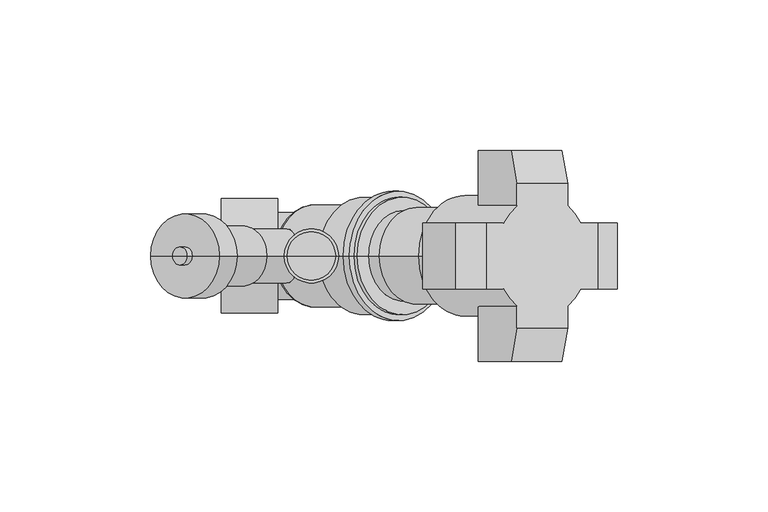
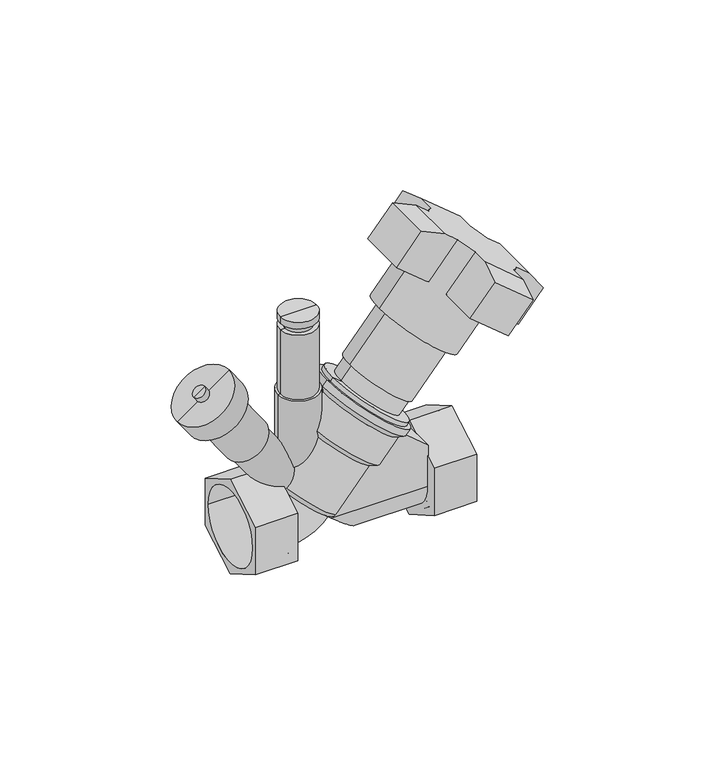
"""IFC4 building model written with IfcOpenShell, lengths in millimetres: valve geometry, 400_56_KOMF_VTR DN20-50 : DN 25, meet & vul/aftap."""

from ifc_helpers import new_model, si_unit, point, frame, origin, origin_2d, place, context, project, spatial, polyline, circle_curve, ellipse_curve, trimmed, segment, composite_curve, outline, extrude, source, transform, mapped, element, save
from ifc_brep_helpers import plane_surface, cylinder_surface, revolved_surface, advanced_brep


def valve_b4a91fd2(model_context):
    return source(origin(), model_context, "Body", "SolidModel", [
        advanced_brep(
        [(-29.95, -19.0, 10.9696551), (-29.95, -19.0, -10.9696551), (-29.95, 0.0, -21.9393102), (-29.95, 19.0, -10.9696551), (-29.95, 19.0, 10.9696551), (-29.95, 0.0, 21.9393102), (-48.75, -19.0, 10.9696551), (-48.75, 0.0, 21.9393102), (-48.75, 19.0, 10.9696551), (-48.75, 19.0, -10.9696551), (-48.75, 0.0, -21.9393102), (-48.75, -19.0, -10.9696551), (-48.75, -16.85, 0.0), (-48.75, 16.85, 0.0), (-31.95, -16.85, 0.0), (-31.95, 16.85, 0.0)],
        [
            (0, 1),
            (1, 2),
            (2, 3),
            (3, 4),
            (4, 5),
            (5, 0),
            (6, 7),
            (7, 8),
            (8, 9),
            (9, 10),
            (10, 11),
            (11, 6),
            (12, 13, circle_curve(frame((-48.75, 0.0, 0.0), z_axis=(1.0, 0.0, 0.0), x_axis=(0.0, 1.0, 0.0)), 16.85)),
            (13, 12, circle_curve(frame((-48.75, 0.0, 0.0), z_axis=(1.0, 0.0, 0.0), x_axis=(0.0, 1.0, 0.0)), 16.85)),
            (0, 6),
            (11, 1),
            (10, 2),
            (9, 3),
            (8, 4),
            (7, 5),
            (14, 15, circle_curve(frame((-31.95, 0.0, 0.0), z_axis=(-1.0, 0.0, 0.0), x_axis=(0.0, 1.0, 0.0)), 16.85)),
            (15, 14, circle_curve(frame((-31.95, 0.0, 0.0), z_axis=(-1.0, 0.0, 0.0), x_axis=(0.0, 1.0, 0.0)), 16.85)),
            (15, 13),
            (12, 14),
        ],
        [
            plane_surface(frame((-29.95, -19.0, 10.9696551), z_axis=(1.0, 0.0, 0.0), x_axis=(0.0, 0.0, -1.0))),
            plane_surface(frame((-48.75, -19.0, 10.9696551), z_axis=(-1.0, 0.0, 0.0), x_axis=(0.0, 0.0, 1.0))),
            plane_surface(frame((-29.95, -19.0, 10.9696551), z_axis=(0.0, -1.0, 0.0), x_axis=(-1.0, 0.0, 0.0))),
            plane_surface(frame((-29.95, -19.0, -10.9696551), z_axis=(0.0, -0.5000000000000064, -0.866025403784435), x_axis=(-1.0, 0.0, 0.0))),
            plane_surface(frame((-29.95, 0.0, -21.9393102), z_axis=(0.0, 0.5000000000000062, -0.866025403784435), x_axis=(-1.0, 0.0, 0.0))),
            plane_surface(frame((-29.95, 19.0, -10.9696551), z_axis=(0.0, 1.0, 0.0), x_axis=(-1.0, 0.0, 0.0))),
            plane_surface(frame((-29.95, 19.0, 10.9696551), z_axis=(0.0, 0.5000000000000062, 0.866025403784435), x_axis=(-1.0, 0.0, 0.0))),
            plane_surface(frame((-29.95, 0.0, 21.9393102), z_axis=(0.0, -0.5000000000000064, 0.866025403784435), x_axis=(-1.0, 0.0, 0.0))),
            plane_surface(frame((-31.95, 16.85, 0.0), z_axis=(-1.0, 0.0, 0.0), x_axis=(0.0, 0.0, 1.0))),
            revolved_surface(polyline([(-31.95, 16.85, 0.0), (-48.75, 16.85, 0.0)]), (-48.75, 0.0, 0.0), (1.0, 0.0, 0.0)),
        ],
        [
            (0, [[1, 2, 3, 4, 5, 6]]),
            (1, [[7, 8, 9, 10, 11, 12], [13, 14]]),
            (2, [[-1, 15, -12, 16]]),
            (3, [[-2, -16, -11, 17]]),
            (4, [[-3, -17, -10, 18]]),
            (5, [[-4, -18, -9, 19]]),
            (6, [[-5, -19, -8, 20]]),
            (7, [[-6, -20, -7, -15]]),
            (8, [[21, 22]]),
            (9, [[-22, 23, -13, 24]]),
            (9, [[-21, -24, -14, -23]]),
        ],
    ),
        advanced_brep(
        [(48.75, -19.0, 10.9696551), (48.75, -19.0, -10.9696551), (48.75, 0.0, -21.9393102), (48.75, 19.0, -10.9696551), (48.75, 19.0, 10.9696551), (48.75, 0.0, 21.9393102), (48.75, 16.85, 0.0), (48.75, -16.85, 0.0), (29.95, -19.0, 10.9696551), (29.95, 0.0, 21.9393102), (29.95, 19.0, 10.9696551), (29.95, 19.0, -10.9696551), (29.95, 0.0, -21.9393102), (29.95, -19.0, -10.9696551), (31.95, -16.85, 0.0), (31.95, 16.85, 0.0)],
        [
            (0, 1),
            (1, 2),
            (2, 3),
            (3, 4),
            (4, 5),
            (5, 0),
            (6, 7, circle_curve(frame((48.75, 0.0, 0.0), z_axis=(-1.0, 0.0, 0.0), x_axis=(0.0, 1.0, 0.0)), 16.85)),
            (7, 6, circle_curve(frame((48.75, 0.0, 0.0), z_axis=(-1.0, 0.0, 0.0), x_axis=(0.0, 1.0, 0.0)), 16.85)),
            (8, 9),
            (9, 10),
            (10, 11),
            (11, 12),
            (12, 13),
            (13, 8),
            (0, 8),
            (13, 1),
            (12, 2),
            (11, 3),
            (10, 4),
            (9, 5),
            (14, 15, circle_curve(frame((31.95, 0.0, 0.0), z_axis=(1.0, 0.0, 0.0), x_axis=(0.0, 1.0, 0.0)), 16.85)),
            (15, 14, circle_curve(frame((31.95, 0.0, 0.0), z_axis=(1.0, 0.0, 0.0), x_axis=(0.0, 1.0, 0.0)), 16.85)),
            (14, 7),
            (6, 15),
        ],
        [
            plane_surface(frame((48.75, -19.0, 10.9696551), z_axis=(1.0, 0.0, 0.0), x_axis=(0.0, 0.0, -1.0))),
            plane_surface(frame((29.95, -19.0, 10.9696551), z_axis=(-1.0, 0.0, 0.0), x_axis=(0.0, 0.0, 1.0))),
            plane_surface(frame((48.75, -19.0, 10.9696551), z_axis=(0.0, -1.0, 0.0), x_axis=(-1.0, 0.0, 0.0))),
            plane_surface(frame((48.75, -19.0, -10.9696551), z_axis=(0.0, -0.5000000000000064, -0.866025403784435), x_axis=(-1.0, 0.0, 0.0))),
            plane_surface(frame((48.75, 0.0, -21.9393102), z_axis=(0.0, 0.5000000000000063, -0.866025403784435), x_axis=(-1.0, 0.0, 0.0))),
            plane_surface(frame((48.75, 19.0, -10.9696551), z_axis=(0.0, 1.0, 0.0), x_axis=(-1.0, 0.0, 0.0))),
            plane_surface(frame((48.75, 19.0, 10.9696551), z_axis=(0.0, 0.5000000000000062, 0.866025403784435), x_axis=(-1.0, 0.0, 0.0))),
            plane_surface(frame((48.75, 0.0, 21.9393102), z_axis=(0.0, -0.5000000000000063, 0.866025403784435), x_axis=(-1.0, 0.0, 0.0))),
            plane_surface(frame((31.95, 16.85, 0.0), z_axis=(1.0, 0.0, 0.0), x_axis=(0.0, 0.0, -1.0))),
            revolved_surface(polyline([(48.75, 16.85, 0.0), (31.95, 16.85, 0.0)]), (31.95, 0.0, 0.0), (1.0, 0.0, 0.0)),
        ],
        [
            (0, [[1, 2, 3, 4, 5, 6], [7, 8]]),
            (1, [[9, 10, 11, 12, 13, 14]]),
            (2, [[-1, 15, -14, 16]]),
            (3, [[-2, -16, -13, 17]]),
            (4, [[-3, -17, -12, 18]]),
            (5, [[-4, -18, -11, 19]]),
            (6, [[-5, -19, -10, 20]]),
            (7, [[-6, -20, -9, -15]]),
            (8, [[21, 22]]),
            (9, [[-21, 23, -7, 24]]),
            (9, [[-22, -24, -8, -23]]),
        ],
    ),
        extrude(outline(polyline([(14.5, 31.95), (27.0730431, 25.0736029), (39.6515796, 10.0830869), (0.0, 22.45), (0.0, 31.95), (14.5, 31.95)])), frame((0.0, -2.0, 0.0), z_axis=(0.0, 1.0, 0.0), x_axis=(0.0, 0.0, 1.0)), (0.0, 0.0, 1.0), 4.0),
        extrude(outline(composite_curve([segment(trimmed(circle_curve(origin_2d(), 16.85), [point((0.0, -16.85))], [point((0.0, 16.85))], False, "CARTESIAN"), True, "CONTINUOUS"), segment(trimmed(circle_curve(origin_2d(), 16.85), [point((0.0, 16.85))], [point((0.0, -16.85))], False, "CARTESIAN"), True, "CONTINUOUS")], self_intersect=False)), frame((29.95, 0.0, 0.0), z_axis=(1.0, 0.0, 0.0), x_axis=(0.0, 1.0, 0.0)), (0.0, 0.0, 1.0), 2.0),
        advanced_brep(
        [(11.3686621, 0.0, 41.1836685), (26.3065287, 0.0, 28.6493101), (-3.5692046, 0.0, 53.7180269), (-30.3330222, 0.0, 14.8213938), (-7.3516889, 0.0, -4.4622345), (-18.8423556, 0.0, 5.1795797), (-15.7954209, 0.0, 35.2580801), (10.2500902, 0.0, 13.4033014), (-4.5340248, 0.0, -4.2157208), (-30.5795359, 0.0, 17.6390579), (-16.4249568, 0.0, 38.397138), (13.4507765, 0.0, 13.3284212), (-8.0687178, 0.0, 48.3557158), (21.8070155, 0.0, 23.286999), (-8.3152315, 0.0, 51.1733799), (24.6246796, 0.0, 23.5335127), (-6.3868687, 0.0, 53.4715132), (26.5530424, 0.0, 25.831646), (-4.8547798, 0.0, 52.185938), (25.0209535, 0.0, 27.1172212)],
        [
            (0, 1),
            (1, 2, circle_curve(frame((11.3686621, 0.0, 41.1836685), z_axis=(0.6427876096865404, 0.0, 0.7660444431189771), x_axis=(0.7660444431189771, 0.0, -0.6427876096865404)), 19.5)),
            (2, 0),
            (2, 1, circle_curve(frame((11.3686621, 0.0, 41.1836685), z_axis=(0.6427876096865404, 0.0, 0.7660444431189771), x_axis=(0.7660444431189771, 0.0, -0.6427876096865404)), 19.5)),
            (3, 4, circle_curve(frame((-18.8423556, 0.0, 5.1795797), z_axis=(-0.6427876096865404, 0.0, -0.7660444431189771), x_axis=(0.7660444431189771, 0.0, -0.6427876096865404)), 15.0)),
            (4, 5),
            (5, 3),
            (4, 3, circle_curve(frame((-18.8423556, 0.0, 5.1795797), z_axis=(-0.6427876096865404, 0.0, -0.7660444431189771), x_axis=(0.7660444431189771, 0.0, -0.6427876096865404)), 15.0)),
            (6, 7, circle_curve(frame((-2.7726653, 0.0, 24.3306907), z_axis=(-0.6427876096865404, 0.0, -0.7660444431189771), x_axis=(0.7660444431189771, 0.0, -0.6427876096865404)), 17.0)),
            (7, 8),
            (8, 9, circle_curve(frame((-17.5567804, 0.0, 6.7116685), z_axis=(0.6427876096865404, 0.0, 0.7660444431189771), x_axis=(0.7660444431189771, 0.0, -0.6427876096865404)), 17.0)),
            (9, 6),
            (7, 6, circle_curve(frame((-2.7726653, 0.0, 24.3306907), z_axis=(-0.6427876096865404, 0.0, -0.7660444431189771), x_axis=(0.7660444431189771, 0.0, -0.6427876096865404)), 17.0)),
            (9, 8, circle_curve(frame((-17.5567804, 0.0, 6.7116685), z_axis=(0.6427876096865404, 0.0, 0.7660444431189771), x_axis=(0.7660444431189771, 0.0, -0.6427876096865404)), 17.0)),
            (10, 11, circle_curve(frame((-1.4870901, 0.0, 25.8627796), z_axis=(-0.6427876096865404, 0.0, -0.7660444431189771), x_axis=(0.7660444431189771, 0.0, -0.6427876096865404)), 19.5)),
            (11, 7),
            (6, 10),
            (11, 10, circle_curve(frame((-1.4870901, 0.0, 25.8627796), z_axis=(-0.6427876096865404, 0.0, -0.7660444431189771), x_axis=(0.7660444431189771, 0.0, -0.6427876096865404)), 19.5)),
            (12, 13, circle_curve(frame((6.8691488, 0.0, 35.8213574), z_axis=(-0.6427876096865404, 0.0, -0.7660444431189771), x_axis=(0.7660444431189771, 0.0, -0.6427876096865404)), 19.5)),
            (13, 11),
            (10, 12),
            (13, 12, circle_curve(frame((6.8691488, 0.0, 35.8213574), z_axis=(-0.6427876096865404, 0.0, -0.7660444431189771), x_axis=(0.7660444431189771, 0.0, -0.6427876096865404)), 19.5)),
            (14, 15, circle_curve(frame((8.154724, 0.0, 37.3534463), z_axis=(-0.6427876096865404, 0.0, -0.7660444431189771), x_axis=(0.7660444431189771, 0.0, -0.6427876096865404)), 21.5)),
            (15, 13),
            (12, 14),
            (15, 14, circle_curve(frame((8.154724, 0.0, 37.3534463), z_axis=(-0.6427876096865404, 0.0, -0.7660444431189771), x_axis=(0.7660444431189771, 0.0, -0.6427876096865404)), 21.5)),
            (16, 17, circle_curve(frame((10.0830869, 0.0, 39.6515796), z_axis=(-0.6427876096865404, 0.0, -0.7660444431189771), x_axis=(0.7660444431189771, 0.0, -0.6427876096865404)), 21.5)),
            (17, 15),
            (14, 16),
            (17, 16, circle_curve(frame((10.0830869, 0.0, 39.6515796), z_axis=(-0.6427876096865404, 0.0, -0.7660444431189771), x_axis=(0.7660444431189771, 0.0, -0.6427876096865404)), 21.5)),
            (18, 19, circle_curve(frame((10.0830869, 0.0, 39.6515796), z_axis=(-0.6427876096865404, 0.0, -0.7660444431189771), x_axis=(0.7660444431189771, 0.0, -0.6427876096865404)), 19.5)),
            (19, 17),
            (16, 18),
            (19, 18, circle_curve(frame((10.0830869, 0.0, 39.6515796), z_axis=(-0.6427876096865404, 0.0, -0.7660444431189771), x_axis=(0.7660444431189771, 0.0, -0.6427876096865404)), 19.5)),
            (1, 19),
            (18, 2),
            (8, 4, circle_curve(frame((-6.0661137, 0.0, -2.9301456), z_axis=(0.0, 1.0, 0.0), x_axis=(0.6427876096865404, 0.0, 0.7660444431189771)), 2.0)),
            (3, 9, circle_curve(frame((-29.047447, 0.0, 16.3534827), z_axis=(0.0, 1.0, 0.0), x_axis=(0.6427876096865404, 0.0, 0.7660444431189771)), 2.0)),
        ],
        [
            plane_surface(frame((11.3686621, 0.0, 41.1836685), z_axis=(0.6427876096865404, 0.0, 0.7660444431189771), x_axis=(0.7660444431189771, 0.0, -0.6427876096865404))),
            plane_surface(frame((-18.8423556, 0.0, 5.1795797), z_axis=(-0.6427876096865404, 0.0, -0.7660444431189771), x_axis=(0.7660444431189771, 0.0, -0.6427876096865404))),
            cylinder_surface(frame((-23.188539, 0.0, 0.0), z_axis=(0.6427876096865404, 0.0, 0.7660444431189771), x_axis=(0.7660444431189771, 0.0, -0.6427876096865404)), 17.0),
            revolved_surface(polyline([(10.2500902, 0.0, 13.4033014), (13.4507765, 0.0, 13.3284212)]), (-23.188539, 0.0, 0.0), (0.6427876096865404, 0.0, 0.7660444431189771)),
            cylinder_surface(frame((-23.188539, 0.0, 0.0), z_axis=(0.6427876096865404, 0.0, 0.7660444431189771), x_axis=(0.7660444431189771, 0.0, -0.6427876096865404)), 19.5),
            revolved_surface(polyline([(21.8070155, 0.0, 23.286999), (24.6246796, 0.0, 23.5335127)]), (-23.188539, 0.0, 0.0), (0.6427876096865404, 0.0, 0.7660444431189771)),
            cylinder_surface(frame((-23.188539, 0.0, 0.0), z_axis=(0.6427876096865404, 0.0, 0.7660444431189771), x_axis=(0.7660444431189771, 0.0, -0.6427876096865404)), 21.5),
            plane_surface(frame((10.0830869, 0.0, 39.6515796), z_axis=(0.6427876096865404, 0.0, 0.7660444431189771), x_axis=(0.7660444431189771, 0.0, -0.6427876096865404))),
            revolved_surface(trimmed(ellipse_curve(frame((-6.0661137, 0.0, -2.9301456), z_axis=(0.0, -1.0, 0.0), x_axis=(0.6427876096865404, 0.0, 0.7660444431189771)), 2.0, 2.0), [point((-7.3516889, 0.0, -4.4622345))], [point((-4.5340248, 0.0, -4.2157208))], True, "CARTESIAN"), (-23.188539, 0.0, 0.0), (0.6427876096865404, 0.0, 0.7660444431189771)),
        ],
        [
            (0, [[1, 2, 3]]),
            (0, [[-3, 4, -1]]),
            (1, [[5, 6, 7]]),
            (1, [[8, -7, -6]]),
            (2, [[9, 10, 11, 12]]),
            (2, [[13, -12, 14, -10]]),
            (3, [[15, 16, -9, 17]]),
            (3, [[18, -17, -13, -16]]),
            (4, [[19, 20, -15, 21]]),
            (4, [[22, -21, -18, -20]]),
            (5, [[23, 24, -19, 25]]),
            (5, [[26, -25, -22, -24]]),
            (6, [[27, 28, -23, 29]]),
            (6, [[30, -29, -26, -28]]),
            (7, [[31, 32, -27, 33]]),
            (7, [[34, -33, -30, -32]]),
            (4, [[-2, 35, -31, 36]]),
            (4, [[-4, -36, -34, -35]]),
            (8, [[-11, 37, -5, 38]]),
            (8, [[-14, -38, -8, -37]]),
        ],
    ),
        advanced_brep(
        [(-27.8423556, 0.0, 53.9729077), (-9.8423556, 0.0, 53.9729077), (-9.8423556, 0.0, 5.1795797), (-27.8423556, 0.0, 5.1795797), (-26.8423556, 0.0, 53.9729077), (-10.8423556, 0.0, 53.9729077), (-26.8423556, 0.0, 83.9729077), (-10.8423556, 0.0, 83.9729077), (-24.8423556, 0.0, 83.9729077), (-12.8423556, 0.0, 83.9729077), (-18.8423556, 0.0, 5.1795797), (-24.8423556, 0.0, 86.9729077), (-12.8423556, 0.0, 86.9729077), (-26.8423556, 0.0, 86.9729077), (-10.8423556, 0.0, 86.9729077), (-26.8423556, 0.0, 89.9729077), (-10.8423556, 0.0, 89.9729077), (-18.8423556, 0.0, 89.9729077)],
        [
            (0, 1, circle_curve(frame((-18.8423556, 0.0, 53.9729077), z_axis=(0.0, 0.0, -1.0), x_axis=(1.0, 0.0, 0.0)), 9.0)),
            (1, 2),
            (2, 3, circle_curve(frame((-18.8423556, 0.0, 5.1795797), z_axis=(0.0, 0.0, 1.0), x_axis=(1.0, 0.0, 0.0)), 9.0)),
            (3, 0),
            (1, 0, circle_curve(frame((-18.8423556, 0.0, 53.9729077), z_axis=(0.0, 0.0, -1.0), x_axis=(1.0, 0.0, 0.0)), 9.0)),
            (3, 2, circle_curve(frame((-18.8423556, 0.0, 5.1795797), z_axis=(0.0, 0.0, 1.0), x_axis=(1.0, 0.0, 0.0)), 9.0)),
            (4, 5, circle_curve(frame((-18.8423556, 0.0, 53.9729077), z_axis=(0.0, 0.0, -1.0), x_axis=(1.0, 0.0, 0.0)), 8.0)),
            (5, 1),
            (0, 4),
            (5, 4, circle_curve(frame((-18.8423556, 0.0, 53.9729077), z_axis=(0.0, 0.0, -1.0), x_axis=(1.0, 0.0, 0.0)), 8.0)),
            (6, 7, circle_curve(frame((-18.8423556, 0.0, 83.9729077), z_axis=(0.0, 0.0, -1.0), x_axis=(1.0, 0.0, 0.0)), 8.0)),
            (7, 5),
            (4, 6),
            (7, 6, circle_curve(frame((-18.8423556, 0.0, 83.9729077), z_axis=(0.0, 0.0, -1.0), x_axis=(1.0, 0.0, 0.0)), 8.0)),
            (8, 9, circle_curve(frame((-18.8423556, 0.0, 83.9729077), z_axis=(0.0, 0.0, -1.0), x_axis=(1.0, 0.0, 0.0)), 6.0)),
            (9, 7),
            (6, 8),
            (9, 8, circle_curve(frame((-18.8423556, 0.0, 83.9729077), z_axis=(0.0, 0.0, -1.0), x_axis=(1.0, 0.0, 0.0)), 6.0)),
            (2, 10),
            (10, 3),
            (11, 12, circle_curve(frame((-18.8423556, 0.0, 86.9729077), z_axis=(0.0, 0.0, -1.0), x_axis=(1.0, 0.0, 0.0)), 6.0)),
            (12, 9),
            (8, 11),
            (12, 11, circle_curve(frame((-18.8423556, 0.0, 86.9729077), z_axis=(0.0, 0.0, -1.0), x_axis=(1.0, 0.0, 0.0)), 6.0)),
            (13, 14, circle_curve(frame((-18.8423556, 0.0, 86.9729077), z_axis=(0.0, 0.0, -1.0), x_axis=(1.0, 0.0, 0.0)), 8.0)),
            (14, 12),
            (11, 13),
            (14, 13, circle_curve(frame((-18.8423556, 0.0, 86.9729077), z_axis=(0.0, 0.0, -1.0), x_axis=(1.0, 0.0, 0.0)), 8.0)),
            (15, 16, circle_curve(frame((-18.8423556, 0.0, 89.9729077), z_axis=(0.0, 0.0, -1.0), x_axis=(1.0, 0.0, 0.0)), 8.0)),
            (16, 14),
            (13, 15),
            (16, 15, circle_curve(frame((-18.8423556, 0.0, 89.9729077), z_axis=(0.0, 0.0, -1.0), x_axis=(1.0, 0.0, 0.0)), 8.0)),
            (17, 16),
            (15, 17),
        ],
        [
            cylinder_surface(frame((-18.8423556, 0.0, 5.1795797), z_axis=(0.0, 0.0, 1.0), x_axis=(1.0, 0.0, 0.0)), 9.0),
            plane_surface(frame((-18.8423556, 0.0, 53.9729077), z_axis=(0.0, 0.0, 1.0), x_axis=(1.0, 0.0, 0.0))),
            cylinder_surface(frame((-18.8423556, 0.0, 5.1795797), z_axis=(0.0, 0.0, 1.0), x_axis=(1.0, 0.0, 0.0)), 8.0),
            plane_surface(frame((-18.8423556, 0.0, 83.9729077), z_axis=(0.0, 0.0, 1.0), x_axis=(1.0, 0.0, 0.0))),
            plane_surface(frame((-18.8423556, 0.0, 5.1795797), z_axis=(0.0, 0.0, -1.0), x_axis=(1.0, 0.0, 0.0))),
            cylinder_surface(frame((-18.8423556, 0.0, 5.1795797), z_axis=(0.0, 0.0, 1.0), x_axis=(1.0, 0.0, 0.0)), 6.0),
            plane_surface(frame((-18.8423556, 0.0, 86.9729077), z_axis=(0.0, 0.0, -1.0), x_axis=(1.0, 0.0, 0.0))),
            plane_surface(frame((-18.8423556, 0.0, 89.9729077), z_axis=(0.0, 0.0, 1.0), x_axis=(1.0, 0.0, 0.0))),
        ],
        [
            (0, [[1, 2, 3, 4]]),
            (0, [[5, -4, 6, -2]]),
            (1, [[7, 8, -1, 9]]),
            (1, [[10, -9, -5, -8]]),
            (2, [[11, 12, -7, 13]]),
            (2, [[14, -13, -10, -12]]),
            (3, [[15, 16, -11, 17]]),
            (3, [[18, -17, -14, -16]]),
            (4, [[-3, 19, 20]]),
            (4, [[-6, -20, -19]]),
            (5, [[21, 22, -15, 23]]),
            (5, [[24, -23, -18, -22]]),
            (6, [[25, 26, -21, 27]]),
            (6, [[28, -27, -24, -26]]),
            (2, [[29, 30, -25, 31]]),
            (2, [[32, -31, -28, -30]]),
            (7, [[33, -29, 34]]),
            (7, [[-34, -32, -33]]),
        ],
    ),
        advanced_brep(
        [(-62.8411907, 0.0, 48.8385136), (-44.8198457, 0.0, 61.4571952), (-45.6389977, 0.0, 60.8836187), (-62.0220386, 0.0, 49.41209), (-26.214724, 0.0, 0.0173917), (-11.4699872, 0.0, 10.3417676), (-18.8423556, 0.0, 5.1795797), (-49.1577814, 0.0, 32.7834735), (-34.4130446, 0.0, 43.1078494), (-49.9769335, 0.0, 32.2098971), (-33.5938926, 0.0, 43.6814258), (-63.9883436, 0.0, 50.4768176), (-45.9669986, 0.0, 63.0954992), (-66.4457997, 0.0, 48.7560883), (-43.5095424, 0.0, 64.8162286), (-72.181564, 0.0, 56.9476088), (-49.2453068, 0.0, 73.007749), (-63.1708916, 0.0, 63.2569496), (-58.2559793, 0.0, 66.6984082), (-64.8916209, 0.0, 65.7144057), (-59.9767086, 0.0, 69.1558643), (-62.4341647, 0.0, 67.435135)],
        [
            (0, 1, circle_curve(frame((-53.8305182, 0.0, 55.1478544), z_axis=(0.573576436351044, 0.0, -0.8191520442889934), x_axis=(0.8191520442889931, 0.0, 0.5735764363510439)), 11.0)),
            (1, 2),
            (2, 3, circle_curve(frame((-53.8305182, 0.0, 55.1478544), z_axis=(-0.573576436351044, 0.0, 0.8191520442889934), x_axis=(0.8191520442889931, 0.0, 0.5735764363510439)), 10.0)),
            (3, 0),
            (1, 0, circle_curve(frame((-53.8305182, 0.0, 55.1478544), z_axis=(0.573576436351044, 0.0, -0.8191520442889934), x_axis=(0.8191520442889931, 0.0, 0.5735764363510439)), 11.0)),
            (3, 2, circle_curve(frame((-53.8305182, 0.0, 55.1478544), z_axis=(-0.573576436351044, 0.0, 0.8191520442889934), x_axis=(0.8191520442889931, 0.0, 0.5735764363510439)), 10.0)),
            (4, 5, circle_curve(frame((-18.8423556, 0.0, 5.1795797), z_axis=(0.573576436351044, 0.0, -0.8191520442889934), x_axis=(0.8191520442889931, 0.0, 0.5735764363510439)), 9.0)),
            (5, 6),
            (6, 4),
            (5, 4, circle_curve(frame((-18.8423556, 0.0, 5.1795797), z_axis=(0.573576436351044, 0.0, -0.8191520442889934), x_axis=(0.8191520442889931, 0.0, 0.5735764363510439)), 9.0)),
            (7, 8, circle_curve(frame((-41.785413, 0.0, 37.9456614), z_axis=(0.573576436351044, 0.0, -0.8191520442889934), x_axis=(0.8191520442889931, 0.0, 0.5735764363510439)), 9.0)),
            (8, 5),
            (4, 7),
            (8, 7, circle_curve(frame((-41.785413, 0.0, 37.9456614), z_axis=(0.573576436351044, 0.0, -0.8191520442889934), x_axis=(0.8191520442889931, 0.0, 0.5735764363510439)), 9.0)),
            (9, 10, circle_curve(frame((-41.785413, 0.0, 37.9456614), z_axis=(0.573576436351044, 0.0, -0.8191520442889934), x_axis=(0.8191520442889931, 0.0, 0.5735764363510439)), 10.0)),
            (10, 8),
            (7, 9),
            (10, 9, circle_curve(frame((-41.785413, 0.0, 37.9456614), z_axis=(0.573576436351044, 0.0, -0.8191520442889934), x_axis=(0.8191520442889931, 0.0, 0.5735764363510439)), 10.0)),
            (2, 10),
            (9, 3),
            (11, 12, circle_curve(frame((-54.9776711, 0.0, 56.7861584), z_axis=(0.573576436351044, 0.0, -0.8191520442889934), x_axis=(0.8191520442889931, 0.0, 0.5735764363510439)), 11.0)),
            (12, 1),
            (0, 11),
            (12, 11, circle_curve(frame((-54.9776711, 0.0, 56.7861584), z_axis=(0.573576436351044, 0.0, -0.8191520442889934), x_axis=(0.8191520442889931, 0.0, 0.5735764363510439)), 11.0)),
            (13, 14, circle_curve(frame((-54.9776711, 0.0, 56.7861584), z_axis=(0.573576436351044, 0.0, -0.8191520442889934), x_axis=(0.8191520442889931, 0.0, 0.5735764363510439)), 14.0)),
            (14, 12),
            (11, 13),
            (14, 13, circle_curve(frame((-54.9776711, 0.0, 56.7861584), z_axis=(0.573576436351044, 0.0, -0.8191520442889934), x_axis=(0.8191520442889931, 0.0, 0.5735764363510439)), 14.0)),
            (15, 16, circle_curve(frame((-60.7134354, 0.0, 64.9776789), z_axis=(0.573576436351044, 0.0, -0.8191520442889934), x_axis=(0.8191520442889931, 0.0, 0.5735764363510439)), 14.0)),
            (16, 14),
            (13, 15),
            (16, 15, circle_curve(frame((-60.7134354, 0.0, 64.9776789), z_axis=(0.573576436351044, 0.0, -0.8191520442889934), x_axis=(0.8191520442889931, 0.0, 0.5735764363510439)), 14.0)),
            (17, 18, circle_curve(frame((-60.7134354, 0.0, 64.9776789), z_axis=(0.573576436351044, 0.0, -0.8191520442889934), x_axis=(0.8191520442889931, 0.0, 0.5735764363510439)), 3.0)),
            (18, 16),
            (15, 17),
            (18, 17, circle_curve(frame((-60.7134354, 0.0, 64.9776789), z_axis=(0.573576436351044, 0.0, -0.8191520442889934), x_axis=(0.8191520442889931, 0.0, 0.5735764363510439)), 3.0)),
            (19, 20, circle_curve(frame((-62.4341647, 0.0, 67.435135), z_axis=(0.573576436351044, 0.0, -0.8191520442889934), x_axis=(0.8191520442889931, 0.0, 0.5735764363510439)), 3.0)),
            (20, 18),
            (17, 19),
            (20, 19, circle_curve(frame((-62.4341647, 0.0, 67.435135), z_axis=(0.573576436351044, 0.0, -0.8191520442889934), x_axis=(0.8191520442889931, 0.0, 0.5735764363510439)), 3.0)),
            (21, 20),
            (19, 21),
        ],
        [
            plane_surface(frame((-53.8305182, 0.0, 55.1478544), z_axis=(0.573576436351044, 0.0, -0.8191520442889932), x_axis=(0.8191520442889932, 0.0, 0.573576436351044))),
            plane_surface(frame((-18.8423556, 0.0, 5.1795797), z_axis=(0.573576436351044, 0.0, -0.8191520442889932), x_axis=(0.8191520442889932, 0.0, 0.573576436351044))),
            cylinder_surface(frame((-18.8423556, 0.0, 5.1795797), z_axis=(-0.5735764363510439, 0.0, 0.8191520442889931), x_axis=(0.8191520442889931, 0.0, 0.5735764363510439)), 9.0),
            plane_surface(frame((-41.785413, 0.0, 37.9456614), z_axis=(0.573576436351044, 0.0, -0.8191520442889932), x_axis=(0.8191520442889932, 0.0, 0.573576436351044))),
            cylinder_surface(frame((-18.8423556, 0.0, 5.1795797), z_axis=(-0.5735764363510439, 0.0, 0.8191520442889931), x_axis=(0.8191520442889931, 0.0, 0.5735764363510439)), 10.0),
            cylinder_surface(frame((-18.8423556, 0.0, 5.1795797), z_axis=(-0.5735764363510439, 0.0, 0.8191520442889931), x_axis=(0.8191520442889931, 0.0, 0.5735764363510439)), 11.0),
            plane_surface(frame((-54.9776711, 0.0, 56.7861584), z_axis=(0.573576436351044, 0.0, -0.8191520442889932), x_axis=(0.8191520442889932, 0.0, 0.573576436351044))),
            cylinder_surface(frame((-18.8423556, 0.0, 5.1795797), z_axis=(-0.5735764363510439, 0.0, 0.8191520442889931), x_axis=(0.8191520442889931, 0.0, 0.5735764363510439)), 14.0),
            plane_surface(frame((-60.7134354, 0.0, 64.9776789), z_axis=(-0.573576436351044, 0.0, 0.8191520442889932), x_axis=(0.8191520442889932, 0.0, 0.573576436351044))),
            cylinder_surface(frame((-18.8423556, 0.0, 5.1795797), z_axis=(-0.5735764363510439, 0.0, 0.8191520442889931), x_axis=(0.8191520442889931, 0.0, 0.5735764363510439)), 3.0),
            plane_surface(frame((-62.4341647, 0.0, 67.435135), z_axis=(-0.573576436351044, 0.0, 0.8191520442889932), x_axis=(0.8191520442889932, 0.0, 0.573576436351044))),
        ],
        [
            (0, [[1, 2, 3, 4]]),
            (0, [[5, -4, 6, -2]]),
            (1, [[7, 8, 9]]),
            (1, [[10, -9, -8]]),
            (2, [[11, 12, -7, 13]]),
            (2, [[14, -13, -10, -12]]),
            (3, [[15, 16, -11, 17]]),
            (3, [[18, -17, -14, -16]]),
            (4, [[-3, 19, -15, 20]]),
            (4, [[-6, -20, -18, -19]]),
            (5, [[21, 22, -1, 23]]),
            (5, [[24, -23, -5, -22]]),
            (6, [[25, 26, -21, 27]]),
            (6, [[28, -27, -24, -26]]),
            (7, [[29, 30, -25, 31]]),
            (7, [[32, -31, -28, -30]]),
            (8, [[33, 34, -29, 35]]),
            (8, [[36, -35, -32, -34]]),
            (9, [[37, 38, -33, 39]]),
            (9, [[40, -39, -36, -38]]),
            (10, [[41, -37, 42]]),
            (10, [[-42, -40, -41]]),
        ],
    ),
        advanced_brep(
        [(4.5147563, 0.0, 56.351359), (27.4960896, 0.0, 37.0677307), (22.8593287, 0.0, 31.5418543), (-0.1220046, 0.0, 50.8254826), (3.7487118, 0.0, 56.9941466), (28.262134, 0.0, 36.4249431), (19.8184021, 0.0, 76.1452577), (44.3318242, 0.0, 55.5760542), (16.7542243, 0.0, 78.7164081), (47.396002, 0.0, 53.0049037), (29.6099765, 0.0, 94.037297), (32.1354005, 11.0, 91.9182146), (44.9911527, 11.0, 107.2391035), (49.3601287, 16.7032931, 103.5730974), (36.5043765, 16.7032931, 88.2522085), (53.3573542, 16.7032931, 74.1108811), (66.2131064, 16.7032931, 89.43177), (70.5820824, 11.0, 85.7657638), (57.7263302, 11.0, 70.444875), (60.2517542, 0.0, 68.3257926), (57.7263302, -11.0, 70.444875), (70.5820824, -11.0, 85.7657638), (66.2131064, -16.7032931, 89.43177), (53.3573542, -16.7032931, 74.1108811), (36.5043765, -16.7032931, 88.2522085), (49.3601287, -16.7032931, 103.5730974), (44.9911527, -11.0, 107.2391035), (32.1354005, -11.0, 91.9182146), (76.1716842, -11.0, 81.075531), (76.1716842, 11.0, 81.075531), (66.2131064, 24.0, 89.43177), (49.3601287, 24.0, 103.5730974), (39.4015509, 11.0, 111.9293363), (39.4015509, -11.0, 111.9293363), (49.3601287, -24.0, 103.5730974), (66.2131064, -24.0, 89.43177), (11.3686621, 0.0, 41.1836685), (29.0466992, -11.0, 116.7018667), (18.1193098, -11.0, 103.6791111), (71.7424209, -11.0, 58.6839785), (82.6698102, -11.0, 71.706734), (82.6698102, 11.0, 71.706734), (71.7424209, 11.0, 58.6839785), (18.1193098, 11.0, 103.6791111), (29.0466992, 11.0, 116.7018667), (53.3573542, 35.0, 74.1108811), (64.2847436, 35.0, 87.1336366), (64.2847436, -35.0, 87.1336366), (53.3573542, -35.0, 74.1108811), (36.5043765, -35.0, 88.2522085), (47.4317658, -35.0, 101.274964), (47.4317658, 35.0, 101.274964), (36.5043765, 35.0, 88.2522085)],
        [
            (0, 1, circle_curve(frame((16.0054229, 0.0, 46.7095449), z_axis=(-0.6427876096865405, 0.0, -0.7660444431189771), x_axis=(0.7660444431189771, 0.0, -0.6427876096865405)), 15.0)),
            (1, 2),
            (2, 3, circle_curve(frame((11.3686621, 0.0, 41.1836685), z_axis=(0.6427876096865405, 0.0, 0.7660444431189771), x_axis=(0.7660444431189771, 0.0, -0.6427876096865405)), 15.0)),
            (3, 0),
            (1, 0, circle_curve(frame((16.0054229, 0.0, 46.7095449), z_axis=(-0.6427876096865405, 0.0, -0.7660444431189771), x_axis=(0.7660444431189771, 0.0, -0.6427876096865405)), 15.0)),
            (3, 2, circle_curve(frame((11.3686621, 0.0, 41.1836685), z_axis=(0.6427876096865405, 0.0, 0.7660444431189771), x_axis=(0.7660444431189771, 0.0, -0.6427876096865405)), 15.0)),
            (0, 4),
            (4, 5, circle_curve(frame((16.0054229, 0.0, 46.7095449), z_axis=(-0.6427876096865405, 0.0, -0.7660444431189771), x_axis=(0.7660444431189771, 0.0, -0.6427876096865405)), 16.0)),
            (5, 1),
            (5, 4, circle_curve(frame((16.0054229, 0.0, 46.7095449), z_axis=(-0.6427876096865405, 0.0, -0.7660444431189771), x_axis=(0.7660444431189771, 0.0, -0.6427876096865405)), 16.0)),
            (4, 6),
            (6, 7, circle_curve(frame((32.0751131, 0.0, 65.8606559), z_axis=(-0.6427876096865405, 0.0, -0.7660444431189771), x_axis=(0.7660444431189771, 0.0, -0.6427876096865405)), 16.0)),
            (7, 5),
            (7, 6, circle_curve(frame((32.0751131, 0.0, 65.8606559), z_axis=(-0.6427876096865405, 0.0, -0.7660444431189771), x_axis=(0.7660444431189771, 0.0, -0.6427876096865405)), 16.0)),
            (6, 8),
            (8, 9, circle_curve(frame((32.0751131, 0.0, 65.8606559), z_axis=(-0.6427876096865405, 0.0, -0.7660444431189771), x_axis=(0.7660444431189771, 0.0, -0.6427876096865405)), 20.0)),
            (9, 7),
            (9, 8, circle_curve(frame((32.0751131, 0.0, 65.8606559), z_axis=(-0.6427876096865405, 0.0, -0.7660444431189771), x_axis=(0.7660444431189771, 0.0, -0.6427876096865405)), 20.0)),
            (8, 10),
            (10, 11, circle_curve(frame((44.9308653, 0.0, 81.1815448), z_axis=(-0.6427876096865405, 0.0, -0.7660444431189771), x_axis=(0.7660444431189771, 0.0, -0.6427876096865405)), 20.0)),
            (11, 12),
            (12, 13, circle_curve(frame((57.7866175, 0.0, 96.5024337), z_axis=(-0.6427876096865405, 0.0, -0.7660444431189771), x_axis=(0.7660444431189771, 0.0, -0.6427876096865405)), 20.0)),
            (13, 14),
            (14, 15, circle_curve(frame((44.9308653, 0.0, 81.1815448), z_axis=(-0.6427876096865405, 0.0, -0.7660444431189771), x_axis=(0.7660444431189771, 0.0, -0.6427876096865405)), 20.0)),
            (15, 16),
            (16, 17, circle_curve(frame((57.7866175, 0.0, 96.5024337), z_axis=(-0.6427876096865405, 0.0, -0.7660444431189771), x_axis=(0.7660444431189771, 0.0, -0.6427876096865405)), 20.0)),
            (17, 18),
            (18, 19, circle_curve(frame((44.9308653, 0.0, 81.1815448), z_axis=(-0.6427876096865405, 0.0, -0.7660444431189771), x_axis=(0.7660444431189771, 0.0, -0.6427876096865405)), 20.0)),
            (19, 9),
            (19, 20, circle_curve(frame((44.9308653, 0.0, 81.1815448), z_axis=(-0.6427876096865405, 0.0, -0.7660444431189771), x_axis=(0.7660444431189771, 0.0, -0.6427876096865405)), 20.0)),
            (20, 21),
            (21, 22, circle_curve(frame((57.7866175, 0.0, 96.5024337), z_axis=(-0.6427876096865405, 0.0, -0.7660444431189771), x_axis=(0.7660444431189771, 0.0, -0.6427876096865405)), 20.0)),
            (22, 23),
            (23, 24, circle_curve(frame((44.9308653, 0.0, 81.1815448), z_axis=(-0.6427876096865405, 0.0, -0.7660444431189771), x_axis=(0.7660444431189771, 0.0, -0.6427876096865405)), 20.0)),
            (24, 25),
            (25, 26, circle_curve(frame((57.7866175, 0.0, 96.5024337), z_axis=(-0.6427876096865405, 0.0, -0.7660444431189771), x_axis=(0.7660444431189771, 0.0, -0.6427876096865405)), 20.0)),
            (26, 27),
            (27, 10, circle_curve(frame((44.9308653, 0.0, 81.1815448), z_axis=(-0.6427876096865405, 0.0, -0.7660444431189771), x_axis=(0.7660444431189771, 0.0, -0.6427876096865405)), 20.0)),
            (28, 29),
            (29, 17),
            (16, 30),
            (30, 31),
            (31, 13),
            (12, 32),
            (32, 33),
            (33, 26),
            (25, 34),
            (34, 35),
            (35, 22),
            (21, 28),
            (2, 36),
            (36, 3),
            (33, 37),
            (37, 38),
            (38, 27),
            (39, 40),
            (40, 28),
            (20, 39),
            (29, 41),
            (41, 42),
            (42, 18),
            (43, 44),
            (44, 32),
            (11, 43),
            (44, 37),
            (43, 38),
            (42, 39),
            (41, 40),
            (45, 46),
            (46, 30),
            (15, 45),
            (35, 47),
            (47, 48),
            (48, 23),
            (49, 50),
            (50, 34),
            (24, 49),
            (31, 51),
            (51, 52),
            (52, 14),
            (45, 52),
            (51, 46),
            (50, 47),
            (49, 48),
        ],
        [
            cylinder_surface(frame((-23.188539, 0.0, 0.0), z_axis=(0.6427876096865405, 0.0, 0.7660444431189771), x_axis=(0.7660444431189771, 0.0, -0.6427876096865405)), 15.0),
            plane_surface(frame((16.0054229, 0.0, 46.7095449), z_axis=(-0.6427876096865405, 0.0, -0.7660444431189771), x_axis=(0.7660444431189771, 0.0, -0.6427876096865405))),
            cylinder_surface(frame((-23.188539, 0.0, 0.0), z_axis=(0.6427876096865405, 0.0, 0.7660444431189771), x_axis=(0.7660444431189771, 0.0, -0.6427876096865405)), 16.0),
            plane_surface(frame((32.0751131, 0.0, 65.8606559), z_axis=(-0.6427876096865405, 0.0, -0.7660444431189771), x_axis=(0.7660444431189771, 0.0, -0.6427876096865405))),
            cylinder_surface(frame((-23.188539, 0.0, 0.0), z_axis=(0.6427876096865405, 0.0, 0.7660444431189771), x_axis=(0.7660444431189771, 0.0, -0.6427876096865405)), 20.0),
            plane_surface(frame((57.7866175, 0.0, 96.5024337), z_axis=(0.6427876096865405, 0.0, 0.7660444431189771), x_axis=(0.7660444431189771, 0.0, -0.6427876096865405))),
            plane_surface(frame((11.3686621, 0.0, 41.1836685), z_axis=(-0.6427876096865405, 0.0, -0.7660444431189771), x_axis=(0.7660444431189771, 0.0, -0.6427876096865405))),
            plane_surface(frame((39.4015509, -11.0, 111.9293363), z_axis=(0.0, -1.0, 0.0), x_axis=(-0.7660444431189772, 0.0, 0.6427876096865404))),
            plane_surface(frame((39.4015509, 11.0, 111.9293363), z_axis=(0.0, 1.0, 0.0), x_axis=(0.7660444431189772, 0.0, -0.6427876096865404))),
            plane_surface(frame((39.4015509, -11.0, 111.9293363), z_axis=(0.4185786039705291, 0.0, 0.9081805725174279), x_axis=(0.0, 1.0, 0.0))),
            plane_surface(frame((29.0466992, -11.0, 116.7018667), z_axis=(-0.7660444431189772, 0.0, 0.6427876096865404), x_axis=(0.0, 1.0, 0.0))),
            plane_surface(frame((18.1193098, -11.0, 103.6791111), z_axis=(-0.6427876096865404, 0.0, -0.7660444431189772), x_axis=(0.0, 1.0, 0.0))),
            plane_surface(frame((71.7424209, -11.0, 58.6839785), z_axis=(0.7660444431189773, 0.0, -0.6427876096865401), x_axis=(0.0, 1.0, 0.0))),
            plane_surface(frame((82.6698102, -11.0, 71.706734), z_axis=(0.8216978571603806, 0.0, 0.5699233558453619), x_axis=(0.0, 1.0, 0.0))),
            plane_surface(frame((64.2847436, 35.0, 87.1336366), z_axis=(0.7660444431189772, 0.0, -0.6427876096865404), x_axis=(0.6427876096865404, 0.0, 0.7660444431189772))),
            plane_surface(frame((47.4317658, 35.0, 101.274964), z_axis=(-0.7660444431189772, 0.0, 0.6427876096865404), x_axis=(-0.6427876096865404, 0.0, -0.7660444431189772))),
            plane_surface(frame((53.3573542, 35.0, 74.1108811), z_axis=(0.0, 1.0000000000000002, 0.0), x_axis=(-0.7660444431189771, 0.0, 0.6427876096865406))),
            plane_surface(frame((64.2847436, 35.0, 87.1336366), z_axis=(0.6201382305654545, 0.26311740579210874, 0.7390519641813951), x_axis=(-0.7660444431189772, 0.0, 0.6427876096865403))),
            plane_surface(frame((66.2131064, -24.0, 89.43177), z_axis=(0.6201382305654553, -0.2631174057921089, 0.7390519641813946), x_axis=(-0.7660444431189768, 0.0, 0.642787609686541))),
            plane_surface(frame((64.2847436, -35.0, 87.1336366), z_axis=(0.0, -1.0, 0.0), x_axis=(-0.7660444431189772, 0.0, 0.6427876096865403))),
            plane_surface(frame((53.3573542, -35.0, 74.1108811), z_axis=(-0.6427876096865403, 0.0, -0.7660444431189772), x_axis=(-0.7660444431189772, 0.0, 0.6427876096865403))),
        ],
        [
            (0, [[1, 2, 3, 4]]),
            (0, [[-2, 5, -4, 6]]),
            (1, [[-1, 7, 8, 9]]),
            (1, [[-5, -9, 10, -7]]),
            (2, [[-8, 11, 12, 13]]),
            (2, [[-10, -13, 14, -11]]),
            (3, [[-12, 15, 16, 17]]),
            (3, [[-14, -17, 18, -15]]),
            (4, [[-16, 19, 20, 21, 22, 23, 24, 25, 26, 27, 28, 29]]),
            (4, [[-18, -29, 30, 31, 32, 33, 34, 35, 36, 37, 38, -19]]),
            (5, [[39, 40, -26, 41, 42, 43, -22, 44, 45, 46, -36, 47, 48, 49, -32, 50]]),
            (6, [[-3, 51, 52]]),
            (6, [[-6, -52, -51]]),
            (7, [[53, 54, 55, -37, -46]]),
            (7, [[56, 57, -50, -31, 58]]),
            (8, [[59, 60, 61, -27, -40]]),
            (8, [[62, 63, -44, -21, 64]]),
            (9, [[-53, -45, -63, 65]]),
            (10, [[-54, -65, -62, 66]]),
            (11, [[-66, -64, -20, -38, -55]]),
            (11, [[67, -58, -30, -28, -61]]),
            (12, [[-56, -67, -60, 68]]),
            (13, [[-57, -68, -59, -39]]),
            (14, [[69, 70, -41, -25, 71]]),
            (14, [[72, 73, 74, -33, -49]]),
            (15, [[75, 76, -47, -35, 77]]),
            (15, [[78, 79, 80, -23, -43]]),
            (16, [[-69, 81, -79, 82]]),
            (17, [[-70, -82, -78, -42]]),
            (18, [[-72, -48, -76, 83]]),
            (19, [[-73, -83, -75, 84]]),
            (20, [[-81, -71, -24, -80]]),
            (20, [[-84, -77, -34, -74]]),
        ],
    ),
        extrude(outline(composite_curve([segment(trimmed(circle_curve(origin_2d(), 16.85), [point((0.0, -16.85))], [point((0.0, 16.85))], False, "CARTESIAN"), True, "CONTINUOUS"), segment(trimmed(circle_curve(origin_2d(), 16.85), [point((0.0, 16.85))], [point((0.0, -16.85))], False, "CARTESIAN"), True, "CONTINUOUS")], self_intersect=False)), frame((-31.95, 0.0, 0.0), z_axis=(1.0, 0.0, 0.0), x_axis=(0.0, 1.0, 0.0)), (0.0, 0.0, 1.0), 2.0),
        advanced_brep(
        [(-29.95, 0.0, -14.5), (-29.95, 0.0, 14.5), (-7.7347111, 0.0, -4.1408407)],
        [
            (0, 1, circle_curve(frame((-29.95, 0.0, 0.0), z_axis=(-1.0, 0.0, 0.0), x_axis=(0.0, 0.0, 1.0)), 14.5)),
            (1, 0, circle_curve(frame((-29.95, 0.0, 0.0), z_axis=(-1.0, 0.0, 0.0), x_axis=(0.0, 0.0, 1.0)), 14.5)),
            (2, 1, circle_curve(frame((-18.8423556, 0.0, 5.1795797), z_axis=(0.6427876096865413, 0.0, 0.7660444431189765), x_axis=(-0.7660444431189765, 0.0, 0.6427876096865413)), 14.5)),
            (1, 2, circle_curve(frame((-18.8423556, 0.0, 5.1795797), z_axis=(0.6427876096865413, 0.0, 0.7660444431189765), x_axis=(-0.7660444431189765, 0.0, 0.6427876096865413)), 14.5)),
            (2, 0, circle_curve(frame((-29.95, 0.0, 14.5), z_axis=(0.0, 1.0, 0.0), x_axis=(0.0, 0.0, -1.0)), 29.0)),
        ],
        [
            plane_surface(frame((-29.95, 1422.6039728, 14.5), z_axis=(-1.0, 0.0, 0.0), x_axis=(0.0, 0.0, -1.0))),
            plane_surface(frame((-29.95, 1422.6039728, 14.5), z_axis=(0.6427876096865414, 0.0, 0.7660444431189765), x_axis=(0.7660444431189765, 0.0, -0.6427876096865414))),
            revolved_surface(trimmed(ellipse_curve(frame((-29.95, 0.0, 0.0), z_axis=(1.0, 0.0, 0.0), x_axis=(0.0, 0.0, 1.0)), 14.5, 14.5), [point((-29.95, 0.0, -14.5))], [point((-29.95, 0.0, 14.5))], True, "CARTESIAN"), (-29.95, 1422.6039728, 14.5), (0.0, 1.0, 0.0)),
            revolved_surface(trimmed(ellipse_curve(frame((-29.95, 0.0, 0.0), z_axis=(1.0, 0.0, 0.0), x_axis=(0.0, 0.0, 1.0)), 14.5, 14.5), [point((-29.95, 0.0, 14.5))], [point((-29.95, 0.0, -14.5))], True, "CARTESIAN"), (-29.95, 1422.6039728, 14.5), (0.0, 1.0, 0.0)),
        ],
        [
            (0, [[1, 2]]),
            (1, [[3, 4]]),
            (2, [[5, -2, -3]]),
            (3, [[-1, -5, -4]]),
        ],
    ),
        advanced_brep(
        [(31.95, -14.5, 0.0), (31.95, 14.5, 0.0), (29.95, -14.5, 0.0), (-12.6695729, -14.5, 0.0), (-12.6695729, 14.5, 0.0), (29.95, 14.5, 0.0), (-18.8423556, 13.5433362, 5.1795797), (-18.8423556, -13.5433362, 5.1795797), (-18.8423556, -14.5, 5.1795797), (-18.8423556, 14.5, 5.1795797), (29.95, -14.5, 19.0650382), (8.154724, -14.5, 37.3534463), (29.95, 14.5, 19.0650382), (8.154724, 14.5, 37.3534463)],
        [
            (0, 1, circle_curve(frame((31.95, 0.0, 0.0), z_axis=(1.0, 0.0, 0.0), x_axis=(0.0, 1.0, 0.0)), 14.5)),
            (1, 0, circle_curve(frame((31.95, 0.0, 0.0), z_axis=(1.0, 0.0, 0.0), x_axis=(0.0, 1.0, 0.0)), 14.5)),
            (0, 2),
            (2, 3),
            (3, 4, ellipse_curve(frame((-12.6695729, 0.0, 0.0), z_axis=(0.6427876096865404, 0.0, 0.7660444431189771), x_axis=(0.7660444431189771, 0.0, -0.6427876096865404)), 22.5579955, 14.5)),
            (4, 5),
            (5, 1),
            (5, 2, circle_curve(frame((29.95, 0.0, 0.0), z_axis=(1.0, 0.0, 0.0), x_axis=(0.0, 1.0, 0.0)), 14.5)),
            (6, 7, ellipse_curve(frame((-12.6695729, 0.0, 0.0), z_axis=(0.6427876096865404, 0.0, 0.7660444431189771), x_axis=(0.7660444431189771, 0.0, -0.6427876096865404)), 22.5579955, 14.5)),
            (7, 6, ellipse_curve(frame((-23.188539, 0.0, 0.0), z_axis=(-0.7660444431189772, 0.0, 0.6427876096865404), x_axis=(0.6427876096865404, 0.0, 0.7660444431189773)), 18.9284057, 14.5)),
            (3, 8),
            (8, 7),
            (6, 9),
            (9, 4),
            (10, 11),
            (11, 8),
            (2, 10),
            (12, 5),
            (9, 13),
            (13, 12),
            (10, 12),
            (13, 11),
        ],
        [
            plane_surface(frame((31.95, 14.5, 0.0), z_axis=(1.0, 0.0, 0.0), x_axis=(0.0, 0.0, 1.0))),
            cylinder_surface(frame((-31.95, 0.0, 0.0), z_axis=(1.0, 0.0, 0.0), x_axis=(0.0, 1.0, 0.0)), 14.5),
            plane_surface(frame((-18.8423556, 0.0, 5.1795797), z_axis=(-0.6427876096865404, 0.0, -0.7660444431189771), x_axis=(0.7660444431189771, 0.0, -0.6427876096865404))),
            plane_surface(frame((8.154724, -14.5, 37.3534463), z_axis=(0.0, -1.0, 0.0), x_axis=(-0.7660444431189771, 0.0, 0.6427876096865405))),
            plane_surface(frame((8.154724, 14.5, 37.3534463), z_axis=(0.0, 1.0, 0.0), x_axis=(0.7660444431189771, 0.0, -0.6427876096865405))),
            plane_surface(frame((29.95, -14.5, 19.0650382), z_axis=(0.6427876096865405, 0.0, 0.7660444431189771), x_axis=(0.0, 1.0, 0.0))),
            plane_surface(frame((8.154724, -14.5, 37.3534463), z_axis=(-0.7660444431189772, 0.0, 0.6427876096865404), x_axis=(0.0, 1.0, 0.0))),
            plane_surface(frame((29.95, -14.5, 0.0), z_axis=(1.0, 0.0, 0.0), x_axis=(0.0, 1.0, 0.0))),
        ],
        [
            (0, [[1, 2]]),
            (1, [[-1, 3, 4, 5, 6, 7]]),
            (1, [[-2, -7, 8, -3]]),
            (1, [[9, 10]]),
            (2, [[11, 12, -9, 13, 14, -5]]),
            (3, [[15, 16, -11, -4, 17]]),
            (4, [[18, -6, -14, 19, 20]]),
            (5, [[-15, 21, -20, 22]]),
            (6, [[-16, -22, -19, -13, -10, -12]]),
            (7, [[-17, -8, -18, -21]]),
        ],
    ),
    ])


if __name__ == "__main__":
    model = new_model("IFC4")
    model_context = context("Model", 3, world=origin())
    ifc_project = project(units=[si_unit("LENGTHUNIT", "METRE", prefix="MILLI")], contexts=[model_context])
    site = spatial("IfcSite", under=ifc_project)
    building = spatial("IfcBuilding", under=site)
    placement = place(None, origin())
    valve_shape = valve_b4a91fd2(model_context)
    element("IfcValve", 1, ObjectType="400_56_KOMF_VTR DN20-50 : DN 25, meet & vul/aftap", at=placement, inside=building, context=model_context, shape_type="MappedRepresentation", body=[
        mapped(valve_shape, transform((0.0, 0.0, 0.0), x_axis=(1.0, 0.0, 0.0), y_axis=(0.0, 1.0, 0.0), z_axis=(0.0, 0.0, 1.0))),
    ])
    save(model, "model.ifc")
